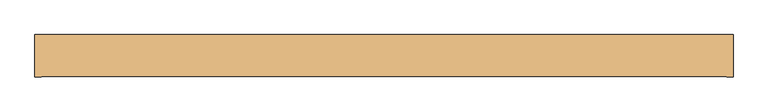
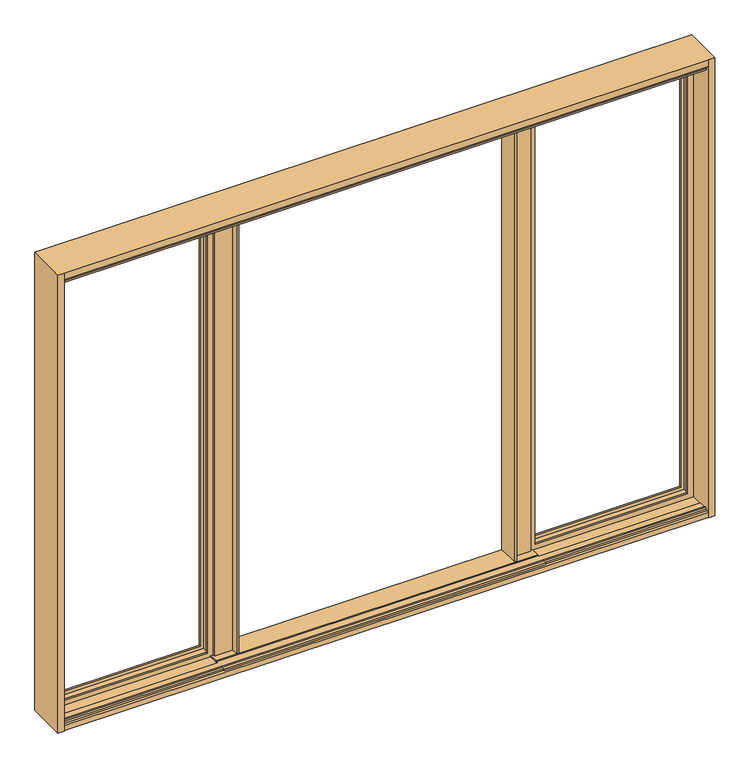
"""IFC4 building model written with IfcOpenShell, lengths in millimetres: door geometry, 4_pod-kli_2+2fix : 4_pod-kli_2+2fix."""

from ifc_helpers import new_model, si_unit, frame, origin, place, context, project, spatial, circle_curve, source, transform, mapped, element, save
from ifc_brep_helpers import plane_surface, cylinder_surface, advanced_brep


def door_62632e80(model_context):
    return source(origin(), model_context, "Body", "AdvancedBrep", [
        advanced_brep(
        [(1472.0, -56.5990772, 0.0), (1500.0, -56.5990772, 0.0), (1500.0, -56.5990772, 2210.0), (1472.0, -56.5990772, 2210.0), (1500.0, 125.0043343, 0.0), (1500.0, 124.9928746, 2210.0), (1460.0000419, 117.0069369, 0.0), (1445.0, 117.0069369, 0.0), (1445.0, 125.0043343, 0.0), (1472.0, -54.8607464, 0.0), (-1472.0, -54.8607464, 0.0), (-1472.0, -56.5990772, 0.0), (-1500.0, -56.5990772, 0.0), (-1500.0, 125.0043343, 0.0), (-1445.0, 125.0043343, 0.0), (-1445.0, 117.0069369, 0.0), (-1460.0000419, 117.0069369, 0.0), (-1460.0000419, 111.1919832, 0.0), (1460.0000419, 111.1919832, 0.0), (1445.0, 124.9928746, 8.6004634), (-1445.0, 124.9928746, 8.6004634), (-1500.0, 124.9928746, 2210.0), (-1445.0, 124.9928746, 50.0000088), (-748.7499949, 124.9928746, 50.0000088), (-748.7499949, 124.9928746, 2151.0), (-1445.0, 124.9928746, 2151.0), (630.9494765, 124.9928746, 29.299937), (630.9494765, 124.9928746, 2151.0), (-630.9494765, 124.9928746, 2151.0), (-630.9494765, 124.9928746, 29.3000034), (748.7499949, 124.9928746, 2151.0), (748.7499949, 124.9928746, 50.0000088), (1445.0, 124.9928746, 50.0000088), (1445.0, 124.9928746, 2151.0), (748.7499949, 116.9938542, 2151.0), (748.7499949, 117.0011341, 50.0000088), (1445.0, 116.994756, 50.0000088), (1445.0, 117.0069369, 8.6004634), (1445.0, 116.9938542, 2151.0), (630.9494765, 19.9992712, 2151.0), (630.9494765, 19.9992712, 34.9995898), (-630.9494765, 19.9992712, 2151.0), (-630.9494765, 19.9992712, 34.9995898), (-733.75, 17.002619, 35.1622652), (733.75, 17.002619, 35.1622652), (733.75, 62.990246, 32.665794), (723.3501121, 62.990246, 32.665794), (723.3501121, 53.1509228, 33.1999287), (639.749464, 53.1509228, 33.1999287), (639.749464, 19.9992712, 34.9995898), (-639.749464, 19.9992712, 34.9995898), (-639.749464, 53.1509228, 33.1999287), (-723.3501121, 53.1509228, 33.1999287), (-723.3501121, 63.0, 32.6652645), (-733.75, 63.0, 32.6652645), (1460.0000419, 117.0069369, 8.6004634), (1460.0000419, 111.1919832, 8.6004634), (-630.9494765, 111.1919832, 8.6004634), (-733.75, 111.1919832, 8.6004634), (-1460.0000419, 111.1919832, 8.6004634), (-1460.0000419, 117.0069369, 8.6004634), (-1445.0, 117.0069369, 8.6004634), (-1445.0, 116.9938542, 2151.0), (-1445.0, 116.9948273, 50.0000088), (-1500.0, -56.5990772, 2210.0), (-748.7499949, 116.9948273, 50.0000088), (-748.7499949, 116.9948273, 2151.0), (733.75, 116.9938542, 2166.0000024), (733.75, 116.9938542, 35.0008765), (1460.0000419, 116.9938542, 35.0008765), (1460.0000419, 116.9938542, 2166.0000024), (733.75, 2.1411688, 2175.5), (733.75, 16.9921419, 2175.5), (733.75, 16.9921419, 2151.0), (733.75, 62.990246, 2151.0), (733.75, 62.990246, 2176.3999968), (733.75, 2.1411688, 2176.3999968), (733.75, 70.9939372, 2166.0000024), (733.75, 71.0012697, 35.0008765), (1460.0000419, 70.9948595, 35.0008765), (1460.0000419, 70.9939372, 2166.0000024), (749.7501121, 70.9939372, 2149.9999968), (749.7501121, 62.990246, 2149.9999968), (749.7501121, 62.9998069, 51.0008822), (749.7501121, 71.0012136, 51.0008822), (1443.9999968, 70.9939372, 51.0008822), (1443.9999968, 70.9939372, 2149.9999968), (1443.9999968, 62.9911465, 51.0008822), (1443.9999968, 62.990246, 2149.9999968), (723.3501121, 63.0, 2151.0), (723.3501121, 53.1509228, 2151.0), (733.75, 62.990246, 28.0008789), (1472.0, 62.990246, 28.0008789), (1472.0, 62.990246, 2176.3999968), (733.75, -45.6463649, 33.1), (733.75, -45.6463649, 25.0), (733.75, -41.7953413, 24.9994356), (733.75, -40.4154149, 33.1), (733.75, 17.002619, 27.9994282), (733.75, 12.5016459, 27.9994282), (733.75, 12.5016459, 33.1), (733.75, 7.2422965, 33.1), (733.75, 8.1393641, 28.0008789), (-733.75, 12.5016459, 28.0008789), (1472.0, 8.1393641, 28.0008789), (-733.75, 17.002619, 28.0008789), (-733.75, 62.9912191, 28.0008789), (-1472.0, 62.9912191, 28.0008789), (-1472.0, 8.1393641, 28.0008789), (-733.75, 8.1393641, 28.0008789), (1472.0, -54.8639485, 2210.0), (1472.0, -54.8639485, 2177.9999929), (1472.0, -35.4639485, 2178.0), (1472.0, -35.4639485, 2162.9482942), (1472.0, -40.1622427, 2158.25), (1472.0, -40.1622427, 2151.0), (1472.0, 6.9911688, 2151.0), (1472.0, 6.9911688, 2158.25), (1472.0, 2.1411688, 2163.1), (1472.0, 2.1411688, 2176.3999968), (1472.0, 7.2422965, 33.1), (1472.0, -26.0710268, 33.1), (1472.0, -26.0710268, 34.4968418), (1472.0, -30.7710268, 34.5086179), (1472.0, -30.7710268, 33.1), (1472.0, -40.4154149, 33.1), (1472.0, -41.7953413, 24.9994356), (1472.0, -54.8607464, 24.9994356), (-733.75, 116.9948273, 35.0008765), (-1460.0000419, 116.9948273, 35.0008765), (-1460.0000419, 70.9949103, 35.0008765), (-733.75, 70.9949103, 35.0008765), (-733.75, 70.9939372, 2166.0000024), (-733.75, 116.9938542, 2166.0000024), (-733.75, 16.9921419, 2151.0), (-733.75, 16.9921419, 2175.5), (-733.75, 2.1411688, 2175.5), (-733.75, 2.1411688, 2176.3999968), (-733.75, 62.990246, 2176.3999968), (-733.75, 62.990246, 2151.0), (-1460.0000419, 70.9949103, 2166.0000024), (-1443.9999968, 70.9949103, 51.0008822), (-749.7501121, 70.9949103, 51.0008822), (-749.7501121, 70.9949103, 2149.9999968), (-1443.9999968, 70.9949103, 2149.9999968), (-1460.0000419, 116.9948273, 2166.0000024), (639.749464, 53.1509228, 2151.0), (639.749464, 19.9992712, 2151.0), (-733.75, -26.0710268, 34.4968418), (733.75, -26.0710268, 34.4968418), (-1472.0, -26.0710268, 33.1), (-1472.0, -26.0710268, 34.4968418), (-733.75, -30.7710268, 34.5086179), (733.75, -30.7710268, 34.5086179), (-733.75, 12.5016459, 33.1), (-733.75, 7.2422965, 33.1), (-1472.0, 7.2422965, 33.1), (-1472.0, -56.5990772, 2210.0), (-1472.0, -54.8607464, 24.9994356), (-1472.0, -41.7953413, 24.9994356), (-1472.0, -40.4154149, 33.1), (-1472.0, -30.7710268, 33.1), (-1472.0, -30.7710268, 34.5086179), (-1472.0, 62.990246, 2176.3999968), (-1472.0, 2.1411688, 2176.3999968), (-1472.0, 2.1411688, 2163.1), (-1472.0, 6.9911688, 2158.25), (-1472.0, 6.9911688, 2151.0), (-1472.0, -40.1622427, 2151.0), (-1472.0, -40.1622427, 2158.25), (-1472.0, -35.4639485, 2162.9482942), (-1472.0, -35.4639485, 2177.9999999), (-1472.0, -54.8639485, 2178.0), (-1472.0, -54.8639485, 2210.0), (-733.75, -45.6463649, 25.0), (-733.75, -45.6463649, 33.1), (-733.75, -40.4154149, 33.1), (-733.75, -41.7953413, 24.9994356), (-723.3501121, 62.9912191, 2151.0), (-1443.9999968, 62.9912191, 2149.9999968), (-749.7501121, 62.9912191, 2149.9999968), (-749.7501121, 62.9912191, 51.0008822), (-1443.9999968, 62.9912191, 51.0008822), (-723.3501121, 53.1509228, 2151.0), (-639.749464, 19.9992712, 2151.0), (-639.749464, 53.1509228, 2151.0)],
        [
            (0, 1),
            (1, 2),
            (2, 3),
            (3, 0),
            (1, 4),
            (4, 5),
            (5, 2),
            (6, 7),
            (7, 8),
            (8, 4),
            (0, 9),
            (9, 10),
            (10, 11),
            (11, 12),
            (12, 13),
            (13, 14),
            (14, 15),
            (15, 16),
            (16, 17),
            (17, 18),
            (18, 6),
            (8, 19),
            (19, 20),
            (20, 14),
            (13, 21),
            (21, 5),
            (22, 23),
            (23, 24),
            (24, 25),
            (25, 22),
            (26, 27),
            (27, 28),
            (28, 29),
            (29, 26),
            (30, 31),
            (31, 32),
            (32, 33),
            (33, 30),
            (30, 34),
            (34, 35),
            (35, 31),
            (35, 36),
            (36, 32),
            (7, 37),
            (37, 19),
            (36, 38),
            (38, 33),
            (39, 27),
            (26, 40),
            (40, 39),
            (28, 41),
            (41, 42),
            (42, 29),
            (43, 44),
            (44, 45),
            (45, 46),
            (46, 47),
            (47, 48),
            (48, 49),
            (49, 40),
            (42, 50),
            (50, 51),
            (51, 52),
            (52, 53),
            (53, 54),
            (54, 43),
            (55, 56),
            (56, 57),
            (57, 58),
            (58, 59),
            (59, 60),
            (60, 61),
            (61, 20),
            (37, 55),
            (61, 15),
            (25, 62),
            (62, 63),
            (63, 22),
            (12, 64),
            (64, 21),
            (63, 65),
            (65, 23),
            (65, 66),
            (66, 24),
            (6, 55),
            (67, 68),
            (68, 69),
            (69, 70),
            (70, 67),
            (34, 38),
            (71, 72),
            (72, 73),
            (73, 74),
            (74, 75),
            (75, 76),
            (76, 71),
            (67, 77),
            (77, 78),
            (78, 68),
            (78, 79),
            (79, 69),
            (18, 56),
            (80, 70),
            (79, 80),
            (81, 82),
            (82, 83),
            (83, 84),
            (84, 81),
            (77, 80),
            (84, 85),
            (85, 86),
            (86, 81),
            (83, 87),
            (87, 85),
            (87, 88),
            (88, 86),
            (89, 90),
            (90, 47),
            (46, 89),
            (74, 89),
            (45, 91),
            (91, 92),
            (92, 93),
            (93, 75),
            (82, 88),
            (94, 95),
            (95, 96),
            (96, 97),
            (97, 94),
            (44, 98),
            (98, 91),
            (99, 100),
            (100, 101),
            (101, 102),
            (102, 99),
            (103, 99),
            (102, 104),
            (104, 92),
            (98, 105),
            (105, 106),
            (106, 107),
            (107, 108),
            (108, 109),
            (109, 103),
            (3, 110),
            (110, 111),
            (111, 112),
            (112, 113),
            (113, 114),
            (114, 115),
            (115, 116),
            (116, 117),
            (117, 118),
            (118, 119),
            (119, 93),
            (104, 120),
            (120, 121),
            (121, 122),
            (122, 123, circle_curve(frame((1472.0, -28.4231639, 33.6498114), z_axis=(1.0, 0.0, 0.0), x_axis=(0.0, -0.9391445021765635, 0.3435223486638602)), 2.5000018)),
            (123, 124),
            (124, 125),
            (125, 126),
            (126, 127),
            (127, 9),
            (128, 129),
            (129, 130),
            (130, 131),
            (131, 128),
            (131, 132),
            (132, 133),
            (133, 128),
            (134, 135),
            (135, 136),
            (136, 137),
            (137, 138),
            (138, 139),
            (139, 134),
            (130, 140),
            (140, 132),
            (141, 142),
            (142, 143),
            (143, 144),
            (144, 141),
            (60, 16),
            (133, 145),
            (145, 129),
            (62, 66),
            (17, 59),
            (145, 140),
            (90, 146),
            (146, 48),
            (146, 147),
            (147, 49),
            (147, 39),
            (148, 149),
            (149, 122),
            (121, 150),
            (150, 151),
            (151, 148),
            (152, 153),
            (153, 149, circle_curve(frame((733.75, -28.4231639, 33.6498114), z_axis=(-1.0, 0.0, 0.0), x_axis=(0.0, 0.9408541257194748, 0.33881191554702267)), 2.5000018)),
            (148, 152, circle_curve(frame((-733.75, -28.4231639, 33.6498114), z_axis=(1.0, 0.0, 0.0), x_axis=(0.0, 0.9408541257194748, 0.33881191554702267)), 2.5000018)),
            (153, 123),
            (100, 154),
            (154, 155),
            (155, 156),
            (156, 150),
            (120, 101),
            (157, 11),
            (10, 158),
            (158, 159),
            (159, 160),
            (160, 161),
            (161, 162),
            (162, 151, circle_curve(frame((-1472.0, -28.4231639, 33.6498114), z_axis=(-1.0, 0.0, 0.0), x_axis=(0.0, -0.9391445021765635, 0.3435223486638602)), 2.5000018)),
            (156, 108),
            (107, 163),
            (163, 164),
            (164, 165),
            (165, 166),
            (166, 167),
            (167, 168),
            (168, 169),
            (169, 170),
            (170, 171),
            (171, 172),
            (172, 173),
            (173, 157),
            (162, 152),
            (103, 154),
            (109, 155),
            (105, 43),
            (54, 106),
            (174, 175),
            (175, 176),
            (176, 177),
            (177, 174),
            (53, 178),
            (178, 139),
            (138, 163),
            (179, 180),
            (180, 181),
            (181, 182),
            (182, 179),
            (127, 158),
            (157, 64),
            (95, 174),
            (177, 159),
            (126, 96),
            (94, 175),
            (176, 160),
            (125, 97),
            (124, 161),
            (52, 183),
            (183, 178),
            (180, 143),
            (142, 181),
            (141, 182),
            (144, 179),
            (41, 184),
            (184, 50),
            (184, 185),
            (185, 51),
            (185, 183),
            (110, 173),
            (172, 111),
            (73, 134),
            (119, 76),
            (136, 71),
            (118, 165),
            (164, 137),
            (117, 166),
            (116, 167),
            (115, 168),
            (114, 169),
            (113, 170),
            (112, 171),
            (72, 135),
        ],
        [
            plane_surface(frame((1500.0, -56.5990772, 0.0), z_axis=(0.0, -1.0, 0.0), x_axis=(0.0, 0.0, 1.0))),
            plane_surface(frame((1500.0, -75.0, 2210.0), z_axis=(1.0, 0.0, 0.0), x_axis=(0.0, -1.0, 0.0))),
            plane_surface(frame((733.75, 111.1919832, 0.0), z_axis=(0.0, 0.0, -1.0), x_axis=(1.0, 0.0, 0.0))),
            plane_surface(frame((733.75, 124.9928746, 2210.0), z_axis=(0.0, 1.0, 0.0), x_axis=(1.0, 0.0, 0.0))),
            plane_surface(frame((748.7499949, 124.9985918, 8.6004634), z_axis=(1.0, 0.0, 0.0), x_axis=(0.0, 0.0, 1.0))),
            plane_surface(frame((733.75, 116.9948273, 50.0000088), z_axis=(0.0, 0.0, 1.0), x_axis=(1.0, 0.0, 0.0))),
            plane_surface(frame((1445.0, 117.0069369, 0.0), z_axis=(-1.0, 0.0, 0.0), x_axis=(0.0, 0.0, 1.0))),
            plane_surface(frame((630.9494765, 19.9992712, 8.6004634), z_axis=(-1.0, 0.0, 0.0), x_axis=(0.0, 0.0, 1.0))),
            plane_surface(frame((-630.9494765, 124.9985918, 8.6004634), z_axis=(1.0, 0.0, 0.0), x_axis=(0.0, 0.0, 1.0))),
            plane_surface(frame((-733.75, 17.002619, 35.1622652), z_axis=(0.0, 0.054205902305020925, 0.9985297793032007), x_axis=(1.0, 0.0, 0.0))),
            plane_surface(frame((733.75, -75.0, 8.6004634), z_axis=(0.0, 0.0, -1.0), x_axis=(0.0, -1.0, 0.0))),
            plane_surface(frame((-1445.0, 125.0043343, 0.0), z_axis=(1.0, 0.0, 0.0), x_axis=(0.0, 0.0, 1.0))),
            plane_surface(frame((-1500.0, -75.0, 0.0), z_axis=(-1.0, 0.0, 0.0), x_axis=(0.0, -1.0, 0.0))),
            plane_surface(frame((-1500.0, 116.9948273, 50.0000088), z_axis=(0.0, 0.0, 1.0), x_axis=(1.0, 0.0, 0.0))),
            plane_surface(frame((-748.7499949, 117.0012775, 8.6004634), z_axis=(-1.0, 0.0, 0.0), x_axis=(0.0, 0.0, 1.0))),
            plane_surface(frame((733.75, 116.9938542, 2151.0), z_axis=(0.0, -1.0, 0.0), x_axis=(1.0, 0.0, 0.0))),
            plane_surface(frame((733.75, -75.0, 2210.0), z_axis=(1.0, 0.0, 0.0), x_axis=(0.0, -1.0, 0.0))),
            plane_surface(frame((733.75, 70.9949103, 35.0008765), z_axis=(0.0, 0.0, 1.0), x_axis=(1.0, 0.0, 0.0))),
            plane_surface(frame((1460.0000419, 71.0070199, 0.0), z_axis=(-1.0, 0.0, 0.0), x_axis=(0.0, 0.0, 1.0))),
            plane_surface(frame((749.7501121, 71.0013605, 8.6004634), z_axis=(1.0, 0.0, 0.0), x_axis=(0.0, 0.0, 1.0))),
            plane_surface(frame((733.75, 70.9939372, 2166.0000024), z_axis=(0.0, 1.0, 0.0), x_axis=(1.0, 0.0, 0.0))),
            plane_surface(frame((733.75, 62.9912191, 51.0008822), z_axis=(0.0, 0.0, 1.0), x_axis=(1.0, 0.0, 0.0))),
            plane_surface(frame((1443.9999968, 63.0, 0.0), z_axis=(-1.0, 0.0, 0.0), x_axis=(0.0, 0.0, 1.0))),
            plane_surface(frame((723.3501121, 63.0, 8.6004634), z_axis=(1.0, 0.0, 0.0), x_axis=(0.0, 0.0, 1.0))),
            plane_surface(frame((733.75, 62.990246, 2149.9999968), z_axis=(0.0, -1.0, 0.0), x_axis=(1.0, 0.0, 0.0))),
            plane_surface(frame((733.75, -75.0, 0.0), z_axis=(1.0, 0.0, 0.0), x_axis=(0.0, -1.0, 0.0))),
            plane_surface(frame((733.75, 8.1393641, 28.0008789), z_axis=(0.0, 0.0, 1.0), x_axis=(1.0, 0.0, 0.0))),
            plane_surface(frame((1472.0, -56.5990772, 0.0), z_axis=(-1.0, 0.0, 0.0), x_axis=(0.0, 0.0, 1.0))),
            plane_surface(frame((-1500.0, 70.9949103, 35.0008765), z_axis=(0.0, 0.0, 1.0), x_axis=(1.0, 0.0, 0.0))),
            plane_surface(frame((-733.75, -75.0, 2210.0), z_axis=(-1.0, 0.0, 0.0), x_axis=(0.0, -1.0, 0.0))),
            plane_surface(frame((-1500.0, 70.9949103, 51.0008822), z_axis=(0.0, 1.0, 0.0), x_axis=(1.0, 0.0, 0.0))),
            plane_surface(frame((-1500.0, 116.9948273, 35.0008765), z_axis=(0.0, -1.0, 0.0), x_axis=(1.0, 0.0, 0.0))),
            plane_surface(frame((733.75, 111.1919832, 8.6004634), z_axis=(0.0, 1.0, 0.0), x_axis=(1.0, 0.0, 0.0))),
            plane_surface(frame((-1460.0000419, 117.0069369, 0.0), z_axis=(1.0, 0.0, 0.0), x_axis=(0.0, 0.0, 1.0))),
            plane_surface(frame((723.3501121, 53.1509228, 8.6004634), z_axis=(0.0, -1.0, 0.0), x_axis=(0.0, 0.0, 1.0))),
            plane_surface(frame((639.749464, 53.1509228, 8.6004634), z_axis=(1.0, 0.0, 0.0), x_axis=(0.0, 0.0, 1.0))),
            plane_surface(frame((639.749464, 19.9992712, 8.6004634), z_axis=(0.0, -1.0, 0.0), x_axis=(0.0, 0.0, 1.0))),
            plane_surface(frame((733.75, -26.0710268, 34.4968418), z_axis=(0.0, 1.0, 0.0), x_axis=(1.0, 0.0, 0.0))),
            cylinder_surface(frame((-733.75, -28.4231639, 33.6498114), z_axis=(-1.0, 0.0, 0.0), x_axis=(0.0, 0.9408541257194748, 0.33881191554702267)), 2.5000018),
            cylinder_surface(frame((733.75, -28.4231639, 33.6498114), z_axis=(-1.0, 0.0, 0.0), x_axis=(0.0, -0.9391445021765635, 0.3435223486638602)), 2.5000018),
            plane_surface(frame((733.75, -26.0710268, 33.1), z_axis=(0.0, 0.0, 1.0), x_axis=(1.0, 0.0, 0.0))),
            plane_surface(frame((-1472.0, 63.0, 0.0), z_axis=(1.0, 0.0, 0.0), x_axis=(0.0, 0.0, 1.0))),
            cylinder_surface(frame((-1500.0, -28.4231639, 33.6498114), z_axis=(-1.0, 0.0, 0.0), x_axis=(0.0, -0.9391445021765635, 0.3435223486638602)), 2.5000018),
            plane_surface(frame((-733.75, 12.5016459, 33.1), z_axis=(0.0, 1.0, 0.0), x_axis=(1.0, 0.0, 0.0))),
            plane_surface(frame((-733.75, -75.0, 0.0), z_axis=(-1.0, 0.0, 0.0), x_axis=(0.0, -1.0, 0.0))),
            plane_surface(frame((-1500.0, 7.2422965, 33.1), z_axis=(0.0, 0.9848752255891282, 0.17326508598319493), x_axis=(1.0, 0.0, 0.0))),
            plane_surface(frame((733.75, 7.2422965, 33.1), z_axis=(0.0, 0.9848752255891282, 0.17326508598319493), x_axis=(1.0, 0.0, 0.0))),
            plane_surface(frame((-733.75, 17.002619, 27.9994282), z_axis=(0.0, -1.0, 0.0), x_axis=(1.0, 0.0, 0.0))),
            plane_surface(frame((-1500.0, 62.9912191, 28.0008789), z_axis=(0.0, -1.0, 0.0), x_axis=(1.0, 0.0, 0.0))),
            plane_surface(frame((733.75, -54.8607464, 0.0), z_axis=(0.0, -1.0, 0.0), x_axis=(1.0, 0.0, 0.0))),
            plane_surface(frame((-1472.0, -56.5990772, 0.0), z_axis=(0.0, -1.0, 0.0), x_axis=(0.0, 0.0, 1.0))),
            plane_surface(frame((733.75, -54.8607464, 24.9994356), z_axis=(0.0, 0.0, 1.0), x_axis=(1.0, 0.0, 0.0))),
            plane_surface(frame((-733.75, -45.6463649, 25.0), z_axis=(0.0, -1.0, 0.0), x_axis=(1.0, 0.0, 0.0))),
            plane_surface(frame((-1500.0, -41.7953413, 24.9994356), z_axis=(0.0, -0.9857988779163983, 0.1679302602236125), x_axis=(1.0, 0.0, 0.0))),
            plane_surface(frame((733.75, -41.7953413, 24.9994356), z_axis=(0.0, -0.9857988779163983, 0.1679302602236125), x_axis=(1.0, 0.0, 0.0))),
            plane_surface(frame((733.75, -40.4154149, 33.1), z_axis=(0.0, 0.0, 1.0), x_axis=(1.0, 0.0, 0.0))),
            plane_surface(frame((733.75, -30.7710268, 33.1), z_axis=(0.0, -1.0, 0.0), x_axis=(1.0, 0.0, 0.0))),
            plane_surface(frame((-723.3501121, 53.1509228, 8.6004634), z_axis=(-1.0, 0.0, 0.0), x_axis=(0.0, 0.0, 1.0))),
            plane_surface(frame((-749.7501121, 63.0, 8.6004634), z_axis=(-1.0, 0.0, 0.0), x_axis=(0.0, 0.0, 1.0))),
            plane_surface(frame((-1500.0, 62.9912191, 51.0008822), z_axis=(0.0, 0.0, 1.0), x_axis=(1.0, 0.0, 0.0))),
            plane_surface(frame((-1443.9999968, 71.0070199, 0.0), z_axis=(1.0, 0.0, 0.0), x_axis=(0.0, 0.0, 1.0))),
            plane_surface(frame((-630.9494765, 19.9992712, 8.6004634), z_axis=(0.0, -1.0, 0.0), x_axis=(0.0, 0.0, 1.0))),
            plane_surface(frame((-639.749464, 19.9992712, 8.6004634), z_axis=(-1.0, 0.0, 0.0), x_axis=(0.0, 0.0, 1.0))),
            plane_surface(frame((-639.749464, 53.1509228, 8.6004634), z_axis=(0.0, -1.0, 0.0), x_axis=(0.0, 0.0, 1.0))),
            plane_surface(frame((733.75, -54.8639485, 2178.0), z_axis=(0.0, -1.0, 0.0), x_axis=(1.0, 0.0, 0.0))),
            plane_surface(frame((733.75, -54.8639485, 2210.0), z_axis=(0.0, 0.0, 1.0), x_axis=(1.0, 0.0, 0.0))),
            plane_surface(frame((733.75, 124.9928746, 2151.0), z_axis=(0.0, 0.0, -1.0), x_axis=(1.0, 0.0, 0.0))),
            plane_surface(frame((733.75, 116.9938542, 2166.0000024), z_axis=(0.0, 0.0, -1.0), x_axis=(1.0, 0.0, 0.0))),
            plane_surface(frame((733.75, 70.9939372, 2149.9999968), z_axis=(0.0, 0.0, -1.0), x_axis=(1.0, 0.0, 0.0))),
            plane_surface(frame((733.75, 62.990246, 2176.3999968), z_axis=(0.0, 0.0, -1.0), x_axis=(1.0, 0.0, 0.0))),
            plane_surface(frame((733.75, 2.1411688, 2176.3999968), z_axis=(0.0, 1.0, 0.0), x_axis=(1.0, 0.0, 0.0))),
            plane_surface(frame((733.75, 2.1411688, 2163.1), z_axis=(0.0, 0.7071067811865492, 0.7071067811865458), x_axis=(1.0, 0.0, 0.0))),
            plane_surface(frame((733.75, 6.9911688, 2158.25), z_axis=(0.0, 1.0, 0.0), x_axis=(1.0, 0.0, 0.0))),
            plane_surface(frame((733.75, 6.9911688, 2151.0), z_axis=(0.0, 0.0, -1.0), x_axis=(1.0, 0.0, 0.0))),
            plane_surface(frame((733.75, -40.1622427, 2151.0), z_axis=(0.0, -1.0, 0.0), x_axis=(1.0, 0.0, 0.0))),
            plane_surface(frame((733.75, -40.1622427, 2158.25), z_axis=(0.0, -0.7071067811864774, 0.7071067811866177), x_axis=(1.0, 0.0, 0.0))),
            plane_surface(frame((733.75, -35.4639485, 2162.9482942), z_axis=(0.0, -1.0, 0.0), x_axis=(1.0, 0.0, 0.0))),
            plane_surface(frame((733.75, -35.4639485, 2178.0), z_axis=(0.0, 0.0, -1.0), x_axis=(1.0, 0.0, 0.0))),
            plane_surface(frame((-733.75, 16.9921419, 2151.0), z_axis=(0.0, -1.0, 0.0), x_axis=(1.0, 0.0, 0.0))),
            plane_surface(frame((-733.75, 16.9921419, 2175.5), z_axis=(0.0, 0.0, -1.0), x_axis=(1.0, 0.0, 0.0))),
            plane_surface(frame((-1500.0, 116.9938542, 2166.0000024), z_axis=(0.0, 0.0, -1.0), x_axis=(1.0, 0.0, 0.0))),
            plane_surface(frame((-1500.0, 70.9939372, 2149.9999968), z_axis=(0.0, 0.0, -1.0), x_axis=(1.0, 0.0, 0.0))),
            plane_surface(frame((-1500.0, 62.990246, 2176.3999968), z_axis=(0.0, 0.0, -1.0), x_axis=(1.0, 0.0, 0.0))),
        ],
        [
            (0, [[1, 2, 3, 4]]),
            (1, [[-2, 5, 6, 7]]),
            (2, [[8, 9, 10, -5, -1, 11, 12, 13, 14, 15, 16, 17, 18, 19, 20, 21]]),
            (3, [[-10, 22, 23, 24, -16, 25, 26, -6], [27, 28, 29, 30], [31, 32, 33, 34], [35, 36, 37, 38]]),
            (4, [[39, 40, 41, -35]]),
            (5, [[-41, 42, 43, -36]]),
            (6, [[-9, 44, 45, -22]]),
            (6, [[-37, -43, 46, 47]]),
            (7, [[48, -31, 49, 50]]),
            (8, [[-33, 51, 52, 53]]),
            (9, [[54, 55, 56, 57, 58, 59, 60, -49, -34, -53, 61, 62, 63, 64, 65, 66]]),
            (10, [[67, 68, 69, 70, 71, 72, 73, -23, -45, 74]]),
            (11, [[-17, -24, -73, 75]]),
            (11, [[-30, 76, 77, 78]]),
            (12, [[79, 80, -25, -15]]),
            (13, [[-78, 81, 82, -27]]),
            (14, [[-28, -82, 83, 84]]),
            (15, [[-8, 85, -74, -44]]),
            (15, [[86, 87, 88, 89], [-40, 90, -46, -42]]),
            (16, [[91, 92, 93, 94, 95, 96]]),
            (16, [[97, 98, 99, -86]]),
            (17, [[-99, 100, 101, -87]]),
            (18, [[-21, 102, -67, -85]]),
            (18, [[103, -88, -101, 104]]),
            (19, [[105, 106, 107, 108]]),
            (20, [[-98, 109, -104, -100], [-108, 110, 111, 112]]),
            (21, [[-107, 113, 114, -110]]),
            (22, [[-111, -114, 115, 116]]),
            (23, [[117, 118, -57, 119]]),
            (24, [[-94, 120, -119, -56, 121, 122, 123, 124], [-106, 125, -115, -113]]),
            (25, [[126, 127, 128, 129]]),
            (25, [[130, 131, -121, -55]]),
            (25, [[132, 133, 134, 135]]),
            (26, [[136, -135, 137, 138, -122, -131, 139, 140, 141, 142, 143, 144]]),
            (27, [[-4, 145, 146, 147, 148, 149, 150, 151, 152, 153, 154, 155, -123, -138, 156, 157, 158, 159, 160, 161, 162, 163, 164, -11]]),
            (28, [[165, 166, 167, 168]]),
            (29, [[-168, 169, 170, 171]]),
            (29, [[172, 173, 174, 175, 176, 177]]),
            (30, [[-169, -167, 178, 179], [180, 181, 182, 183]]),
            (31, [[-18, -75, -72, 184]]),
            (31, [[-171, 185, 186, -165], [187, -83, -81, -77]]),
            (32, [[-102, -20, 188, -70, -69, -68]]),
            (33, [[-19, -184, -71, -188]]),
            (33, [[-166, -186, 189, -178]]),
            (34, [[190, 191, -58, -118]]),
            (35, [[192, 193, -59, -191]]),
            (36, [[194, -50, -60, -193]]),
            (37, [[195, 196, -158, 197, 198, 199]]),
            (38, [[200, 201, -195, 202]]),
            (39, [[-201, 203, -159, -196]]),
            (40, [[204, 205, 206, 207, -197, -157, 208, -133]]),
            (41, [[209, -13, 210, 211, 212, 213, 214, 215, -198, -207, 216, -142, 217, 218, 219, 220, 221, 222, 223, 224, 225, 226, 227, 228]]),
            (42, [[-202, -199, -215, 229]]),
            (43, [[230, -204, -132, -136]]),
            (44, [[-230, -144, 231, -205]]),
            (44, [[232, -66, 233, -140]]),
            (44, [[234, 235, 236, 237]]),
            (45, [[-231, -143, -216, -206]]),
            (46, [[-134, -208, -156, -137]]),
            (47, [[-232, -139, -130, -54]]),
            (48, [[-233, -65, 238, 239, -176, 240, -217, -141], [241, 242, 243, 244]]),
            (49, [[-164, 245, -210, -12]]),
            (50, [[-14, -209, 246, -79]]),
            (51, [[247, -237, 248, -211, -245, -163, 249, -127]]),
            (52, [[-234, -247, -126, 250]]),
            (53, [[-236, 251, -212, -248]]),
            (54, [[-128, -249, -162, 252]]),
            (55, [[-250, -129, -252, -161, 253, -213, -251, -235]]),
            (56, [[-200, -229, -214, -253, -160, -203]]),
            (57, [[254, 255, -238, -64]]),
            (58, [[-242, 256, -181, 257]]),
            (59, [[258, -243, -257, -180]]),
            (60, [[-183, 259, -244, -258]]),
            (61, [[-52, 260, 261, -61]]),
            (62, [[-261, 262, 263, -62]]),
            (63, [[-263, 264, -254, -63]]),
            (64, [[-146, 265, -227, 266]]),
            (65, [[-3, -7, -26, -80, -246, -228, -265, -145]]),
            (66, [[-39, -38, -47, -90]]),
            (66, [[-76, -29, -84, -187]]),
            (66, [[267, -177, -239, -255, -264, -262, -260, -51, -32, -48, -194, -192, -190, -117, -120, -93]]),
            (67, [[-97, -89, -103, -109]]),
            (68, [[-105, -112, -116, -125]]),
            (69, [[-95, -124, -155, 268]]),
            (70, [[269, -96, -268, -154, 270, -219, 271, -174]]),
            (71, [[-153, 272, -220, -270]]),
            (72, [[-152, 273, -221, -272]]),
            (73, [[-151, 274, -222, -273]]),
            (74, [[-150, 275, -223, -274]]),
            (75, [[-149, 276, -224, -275]]),
            (76, [[-148, 277, -225, -276]]),
            (77, [[-147, -266, -226, -277]]),
            (78, [[-172, -267, -92, 278]]),
            (79, [[-173, -278, -91, -269]]),
            (80, [[-185, -170, -179, -189]]),
            (81, [[-259, -182, -256, -241]]),
            (82, [[-240, -175, -271, -218]]),
        ],
    ),
    ])


if __name__ == "__main__":
    model = new_model("IFC4")
    model_context = context("Model", 3, world=origin())
    ifc_project = project(units=[si_unit("LENGTHUNIT", "METRE", prefix="MILLI")], contexts=[model_context])
    site = spatial("IfcSite", under=ifc_project)
    building = spatial("IfcBuilding", under=site)
    placement = place(None, origin())
    door_shape = door_62632e80(model_context)
    element("IfcDoor", 1, ObjectType="4_pod-kli_2+2fix : 4_pod-kli_2+2fix", at=placement, inside=building, context=model_context, shape_type="MappedRepresentation", body=[
        mapped(door_shape, transform((0.0, 0.0, 0.0), x_axis=(1.0, 0.0, 0.0), y_axis=(0.0, 1.0, 0.0), z_axis=(0.0, 0.0, 1.0))),
    ])
    save(model, "model.ifc")
